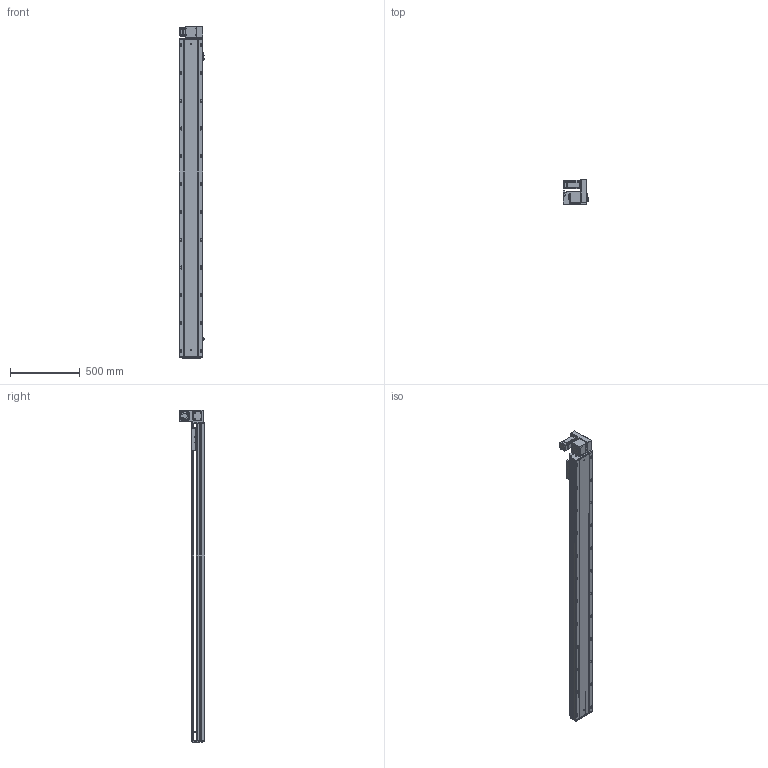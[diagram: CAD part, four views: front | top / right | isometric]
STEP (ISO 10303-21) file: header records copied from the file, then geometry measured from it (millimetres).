
FILE_DESCRIPTION (( 'STEP AP203' ), '1' );
FILE_NAME ('RY170-T-300-UR-P400W.SLDASM_2000.step', '2021-03-01T09:29:05', ( '盈信电脑' ), ( '东莞市道滘镇水果街19号' ), 'SwSTEP 2.0', 'SolidWorks 2012', '' );
FILE_SCHEMA (( 'CONFIG_CONTROL_DESIGN' ));
Length unit declared in the file: millimetre
Products named in the file (18): RY170-T-300-UR-P400W.SLDASM_2000; 滅袉蝶18-10; 15; RY120-T主同步轮轴承压盖; RY170-T肮祭謫裔啣; RY170-T蹟翐M4; RY170肮祭謫萇儂欶; RY170-T肮祭湍揤踡輸2; RY170同步轮电机安装板(400W); RY170-T肮祭湍揤踡輸1; RY170肮祭謫ヶ裔啣; 覜茼ん672; RY170翋肮祭謫釱; RY170外置感应片(200共用）; RY170綴裔啣; RY170-T-300肮祭謫倰第菁釱-DR_2000; RY170肮祭湍臏賑輸; RY170-T-300肮祭謫倰第裔啣-DR_2000
Assembly tree (22 placements, depth 2):
  RY170-T-300-UR-P400W.SLDASM_2000
    RY170-T-300肮祭謫倰第菁釱-DR_2000
    RY170肮祭湍臏賑輸
    RY170-T-300肮祭謫倰第裔啣-DR_2000
    RY170綴裔啣
    覜茼ん672  x3
    RY170外置感应片(200共用）
    RY170肮祭謫ヶ裔啣
    RY170翋肮祭謫釱
    RY170同步轮电机安装板(400W)
    RY170肮祭謫萇儂欶
    RY170-T肮祭湍揤踡輸1  x2
    RY170-T肮祭湍揤踡輸2  x2
    RY120-T主同步轮轴承压盖
    RY170-T肮祭謫裔啣
    RY170-T蹟翐M4
    滅袉蝶18-10  x2
    15
Bounding box: 183.7 x 182 x 2388 mm (x, y, z)
Volume: 11085599.8 mm3; surface area: 3820664.9 mm2
Topology: 22 solids, 22 shells, 3012 faces, 8454 edges, 5391 vertices
Faces by surface type: cylinder 1408, plane 1270, cone 304, bspline 30
Entity records: 91800 total; most frequent: CARTESIAN_POINT 21345, ORIENTED_EDGE 14480, DIRECTION 14088, EDGE_CURVE 7240, AXIS2_PLACEMENT_3D 5004, VERTEX_POINT 4747, VECTOR 4080, LINE 4080
